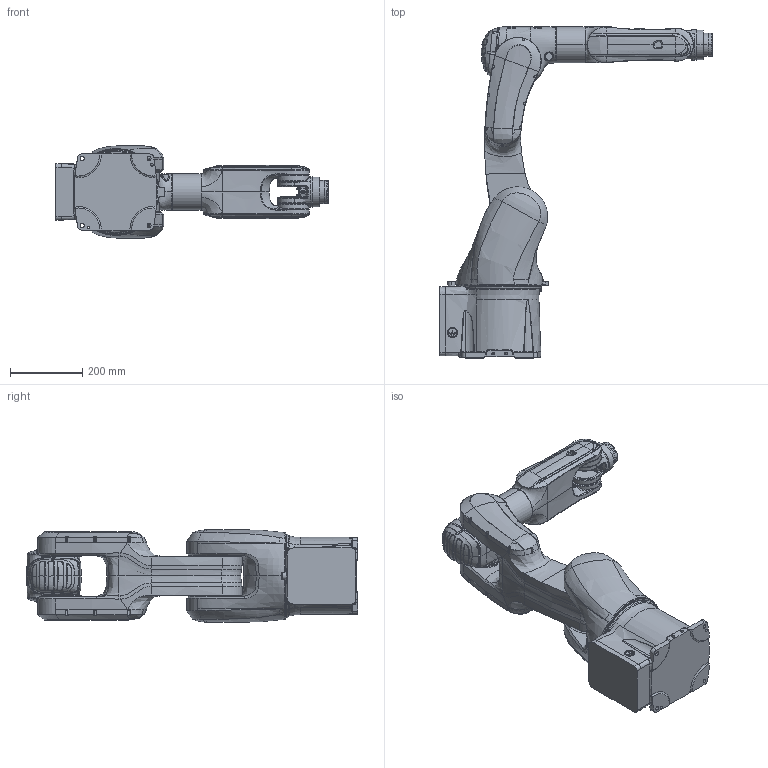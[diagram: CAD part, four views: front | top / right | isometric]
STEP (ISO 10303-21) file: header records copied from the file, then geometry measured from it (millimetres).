
FILE_DESCRIPTION (( 'STEP AP214' ), '1' );
FILE_NAME ('MB10S-920 俋楷耀倰2020唳褫雄.STEP', '2024-10-25T02:50:21', ( 'Windows User' ), ( 'P R C' ), 'SwSTEP 2.0', 'SolidWorks 2020', '' );
FILE_SCHEMA (( 'AUTOMOTIVE_DESIGN' ));
Length unit declared in the file: millimetre
Products named in the file (8): J5; J6; J4; J3; J1; MB10S-920 俋楷耀倰2020唳褫雄; J2; J6楊擘
Assembly tree (7 placements, depth 2):
  MB10S-920 俋楷耀倰2020唳褫雄
    J1
    J2
    J3
    J4
    J5
    J6
    J6楊擘
Bounding box: 752 x 917 x 256.55 mm (x, y, z)
Volume: 32105094.8 mm3; surface area: 1281183 mm2
Topology: 7 solids, 22 shells, 2663 faces, 6473 edges, 3823 vertices
Faces by surface type: bspline 1331, cylinder 628, plane 471, cone 229, sphere 2, torus 2
Entity records: 345698 total; most frequent: CARTESIAN_POINT 281894, ORIENTED_EDGE 12612, DIRECTION 7751, EDGE_CURVE 6306, VERTEX_POINT 3821, AXIS2_PLACEMENT_3D 3060, EDGE_LOOP 2871, B_SPLINE_CURVE_WITH_KNOTS 2779
